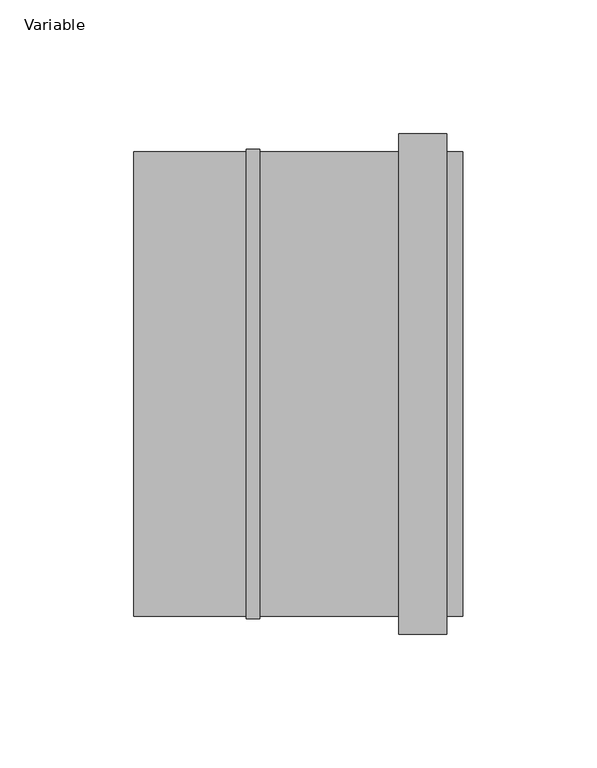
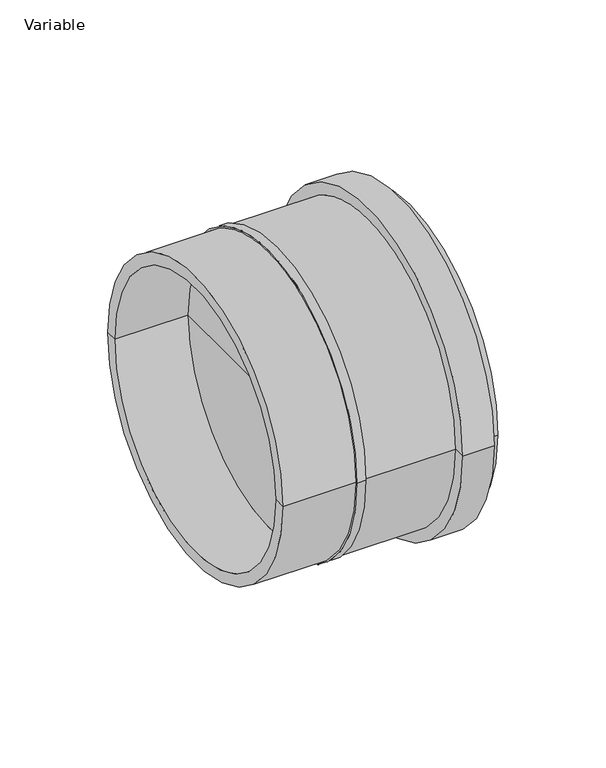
"""IFC4 building model written with IfcOpenShell, lengths in millimetres: pipe fitting geometry, AliaxisFR_Friaphon_MixedCoupling_FR : Variable."""

from ifc_helpers import new_model, si_unit, frame, origin, place, context, project, spatial, polyline, circle_curve, source, transform, mapped, element, save
from ifc_brep_helpers import plane_surface, cylinder_surface, revolved_surface, advanced_brep


def variable_8cbfe155(model_context):
    return source(origin(), model_context, "Body", "AdvancedBrep", [
        advanced_brep(
        [(79.0, -86.75, 0.0), (79.0, 86.75, 0.0), (79.0, 80.0, 0.0), (79.0, -80.0, 0.0), (73.0, -86.75, 0.0), (73.0, 86.75, 0.0), (73.0, -93.5, 0.0), (73.0, 93.5, 0.0), (55.0, -93.5, 0.0), (55.0, 93.5, 0.0), (55.0, -86.75, 0.0), (55.0, 86.75, 0.0), (3.0, -86.75, 0.0), (3.0, 86.75, 0.0), (-44.0, -80.0, 0.0), (-44.0, 80.0, 0.0), (-44.0, 86.75, 0.0), (-44.0, -86.75, 0.0), (-2.0, -80.0, 0.0), (-2.0, 80.0, 0.0), (-2.0, 0.0, 0.0), (2.0, 80.0, 0.0), (2.0, -80.0, 0.0), (3.0, -87.75, 0.0), (3.0, 87.75, 0.0), (-2.0, -87.75, 0.0), (-2.0, 87.75, 0.0), (-2.0, -86.75, 0.0), (-2.0, 86.75, 0.0), (2.0, 0.0, 0.0)],
        [
            (0, 1, circle_curve(frame((79.0, 0.0, 0.0), z_axis=(1.0, 0.0, 0.0), x_axis=(0.0, 1.0, 0.0)), 86.75)),
            (1, 2),
            (2, 3, circle_curve(frame((79.0, 0.0, 0.0), z_axis=(-1.0, 0.0, 0.0), x_axis=(0.0, 1.0, 0.0)), 80.0)),
            (3, 0),
            (1, 0, circle_curve(frame((79.0, 0.0, 0.0), z_axis=(1.0, 0.0, 0.0), x_axis=(0.0, 1.0, 0.0)), 86.75)),
            (3, 2, circle_curve(frame((79.0, 0.0, 0.0), z_axis=(-1.0, 0.0, 0.0), x_axis=(0.0, 1.0, 0.0)), 80.0)),
            (4, 5, circle_curve(frame((73.0, 0.0, 0.0), z_axis=(1.0, 0.0, 0.0), x_axis=(0.0, 1.0, 0.0)), 86.75)),
            (5, 1),
            (0, 4),
            (5, 4, circle_curve(frame((73.0, 0.0, 0.0), z_axis=(1.0, 0.0, 0.0), x_axis=(0.0, 1.0, 0.0)), 86.75)),
            (6, 7, circle_curve(frame((73.0, 0.0, 0.0), z_axis=(1.0, 0.0, 0.0), x_axis=(0.0, 1.0, 0.0)), 93.5)),
            (7, 5),
            (4, 6),
            (7, 6, circle_curve(frame((73.0, 0.0, 0.0), z_axis=(1.0, 0.0, 0.0), x_axis=(0.0, 1.0, 0.0)), 93.5)),
            (8, 9, circle_curve(frame((55.0, 0.0, 0.0), z_axis=(1.0, 0.0, 0.0), x_axis=(0.0, 1.0, 0.0)), 93.5)),
            (9, 7),
            (6, 8),
            (9, 8, circle_curve(frame((55.0, 0.0, 0.0), z_axis=(1.0, 0.0, 0.0), x_axis=(0.0, 1.0, 0.0)), 93.5)),
            (10, 11, circle_curve(frame((55.0, 0.0, 0.0), z_axis=(1.0, 0.0, 0.0), x_axis=(0.0, 1.0, 0.0)), 86.75)),
            (11, 9),
            (8, 10),
            (11, 10, circle_curve(frame((55.0, 0.0, 0.0), z_axis=(1.0, 0.0, 0.0), x_axis=(0.0, 1.0, 0.0)), 86.75)),
            (12, 13, circle_curve(frame((3.0, 0.0, 0.0), z_axis=(1.0, 0.0, 0.0), x_axis=(0.0, 1.0, 0.0)), 86.75)),
            (13, 11),
            (10, 12),
            (13, 12, circle_curve(frame((3.0, 0.0, 0.0), z_axis=(1.0, 0.0, 0.0), x_axis=(0.0, 1.0, 0.0)), 86.75)),
            (14, 15, circle_curve(frame((-44.0, 0.0, 0.0), z_axis=(1.0, 0.0, 0.0), x_axis=(0.0, 1.0, 0.0)), 80.0)),
            (15, 16),
            (16, 17, circle_curve(frame((-44.0, 0.0, 0.0), z_axis=(-1.0, 0.0, 0.0), x_axis=(0.0, 1.0, 0.0)), 86.75)),
            (17, 14),
            (15, 14, circle_curve(frame((-44.0, 0.0, 0.0), z_axis=(1.0, 0.0, 0.0), x_axis=(0.0, 1.0, 0.0)), 80.0)),
            (17, 16, circle_curve(frame((-44.0, 0.0, 0.0), z_axis=(-1.0, 0.0, 0.0), x_axis=(0.0, 1.0, 0.0)), 86.75)),
            (18, 19, circle_curve(frame((-2.0, 0.0, 0.0), z_axis=(1.0, 0.0, 0.0), x_axis=(0.0, 1.0, 0.0)), 80.0)),
            (19, 15),
            (14, 18),
            (19, 18, circle_curve(frame((-2.0, 0.0, 0.0), z_axis=(1.0, 0.0, 0.0), x_axis=(0.0, 1.0, 0.0)), 80.0)),
            (20, 19),
            (18, 20),
            (2, 21),
            (21, 22, circle_curve(frame((2.0, 0.0, 0.0), z_axis=(-1.0, 0.0, 0.0), x_axis=(0.0, 1.0, 0.0)), 80.0)),
            (22, 3),
            (22, 21, circle_curve(frame((2.0, 0.0, 0.0), z_axis=(-1.0, 0.0, 0.0), x_axis=(0.0, 1.0, 0.0)), 80.0)),
            (23, 24, circle_curve(frame((3.0, 0.0, 0.0), z_axis=(1.0, 0.0, 0.0), x_axis=(0.0, 1.0, 0.0)), 87.75)),
            (24, 13),
            (12, 23),
            (24, 23, circle_curve(frame((3.0, 0.0, 0.0), z_axis=(1.0, 0.0, 0.0), x_axis=(0.0, 1.0, 0.0)), 87.75)),
            (25, 26, circle_curve(frame((-2.0, 0.0, 0.0), z_axis=(1.0, 0.0, 0.0), x_axis=(0.0, 1.0, 0.0)), 87.75)),
            (26, 24),
            (23, 25),
            (26, 25, circle_curve(frame((-2.0, 0.0, 0.0), z_axis=(1.0, 0.0, 0.0), x_axis=(0.0, 1.0, 0.0)), 87.75)),
            (27, 28, circle_curve(frame((-2.0, 0.0, 0.0), z_axis=(1.0, 0.0, 0.0), x_axis=(0.0, 1.0, 0.0)), 86.75)),
            (28, 26),
            (25, 27),
            (28, 27, circle_curve(frame((-2.0, 0.0, 0.0), z_axis=(1.0, 0.0, 0.0), x_axis=(0.0, 1.0, 0.0)), 86.75)),
            (16, 28),
            (27, 17),
            (21, 29),
            (29, 22),
        ],
        [
            plane_surface(frame((79.0, 0.0, 0.0), z_axis=(1.0, 0.0, 0.0), x_axis=(0.0, 1.0, 0.0))),
            cylinder_surface(frame((2027.0, 0.0, 0.0), z_axis=(-1.0, 0.0, 0.0), x_axis=(0.0, 1.0, 0.0)), 86.75),
            plane_surface(frame((73.0, 0.0, 0.0), z_axis=(1.0, 0.0, 0.0), x_axis=(0.0, 1.0, 0.0))),
            cylinder_surface(frame((2027.0, 0.0, 0.0), z_axis=(-1.0, 0.0, 0.0), x_axis=(0.0, 1.0, 0.0)), 93.5),
            plane_surface(frame((55.0, 0.0, 0.0), z_axis=(-1.0, 0.0, 0.0), x_axis=(0.0, 1.0, 0.0))),
            plane_surface(frame((-44.0, 0.0, 0.0), z_axis=(-1.0, 0.0, 0.0), x_axis=(0.0, 1.0, 0.0))),
            revolved_surface(polyline([(-44.0, 80.0, 0.0), (-2.0, 80.0, 0.0)]), (2027.0, 0.0, 0.0), (-1.0, 0.0, 0.0)),
            plane_surface(frame((-2.0, 0.0, 0.0), z_axis=(-1.0, 0.0, 0.0), x_axis=(0.0, 1.0, 0.0))),
            revolved_surface(polyline([(2.0, 80.0, 0.0), (79.0, 80.0, 0.0)]), (2027.0, 0.0, 0.0), (-1.0, 0.0, 0.0)),
            plane_surface(frame((3.0, 0.0, 0.0), z_axis=(1.0, 0.0, 0.0), x_axis=(0.0, 1.0, 0.0))),
            cylinder_surface(frame((2027.0, 0.0, 0.0), z_axis=(-1.0, 0.0, 0.0), x_axis=(0.0, 1.0, 0.0)), 87.75),
            plane_surface(frame((2.0, 0.0, 0.0), z_axis=(1.0, 0.0, 0.0), x_axis=(0.0, 1.0, 0.0))),
        ],
        [
            (0, [[1, 2, 3, 4]]),
            (0, [[5, -4, 6, -2]]),
            (1, [[7, 8, -1, 9]]),
            (1, [[10, -9, -5, -8]]),
            (2, [[11, 12, -7, 13]]),
            (2, [[14, -13, -10, -12]]),
            (3, [[15, 16, -11, 17]]),
            (3, [[18, -17, -14, -16]]),
            (4, [[19, 20, -15, 21]]),
            (4, [[22, -21, -18, -20]]),
            (1, [[23, 24, -19, 25]]),
            (1, [[26, -25, -22, -24]]),
            (5, [[27, 28, 29, 30]]),
            (5, [[31, -30, 32, -28]]),
            (6, [[33, 34, -27, 35]]),
            (6, [[36, -35, -31, -34]]),
            (7, [[37, -33, 38]]),
            (7, [[-38, -36, -37]]),
            (8, [[-3, 39, 40, 41]]),
            (8, [[-6, -41, 42, -39]]),
            (9, [[43, 44, -23, 45]]),
            (9, [[46, -45, -26, -44]]),
            (10, [[47, 48, -43, 49]]),
            (10, [[50, -49, -46, -48]]),
            (7, [[51, 52, -47, 53]]),
            (7, [[54, -53, -50, -52]]),
            (1, [[-29, 55, -51, 56]]),
            (1, [[-32, -56, -54, -55]]),
            (11, [[-40, 57, 58]]),
            (11, [[-42, -58, -57]]),
        ],
    ),
    ])


if __name__ == "__main__":
    model = new_model("IFC4")
    model_context = context("Model", 3, world=origin())
    ifc_project = project(units=[si_unit("LENGTHUNIT", "METRE", prefix="MILLI")], contexts=[model_context])
    site = spatial("IfcSite", under=ifc_project)
    building = spatial("IfcBuilding", under=site)
    placement = place(None, origin())
    variable_shape = variable_8cbfe155(model_context)
    element("IfcPipeFitting", 1, ObjectType="AliaxisFR_Friaphon_MixedCoupling_FR : Variable", at=placement, inside=building, context=model_context, shape_type="MappedRepresentation", body=[
        mapped(variable_shape, transform((0.0, 0.0, 0.0), x_axis=(1.0, 0.0, 0.0), y_axis=(0.0, 1.0, 0.0), z_axis=(0.0, 0.0, 1.0))),
    ])
    save(model, "model.ifc")
